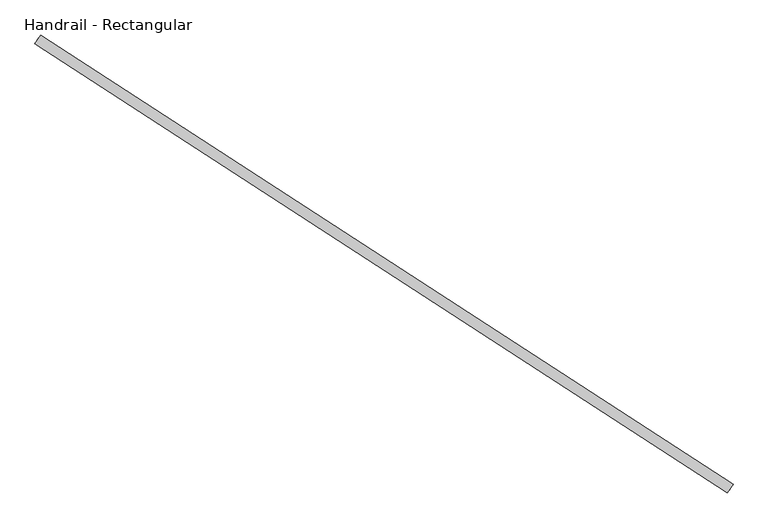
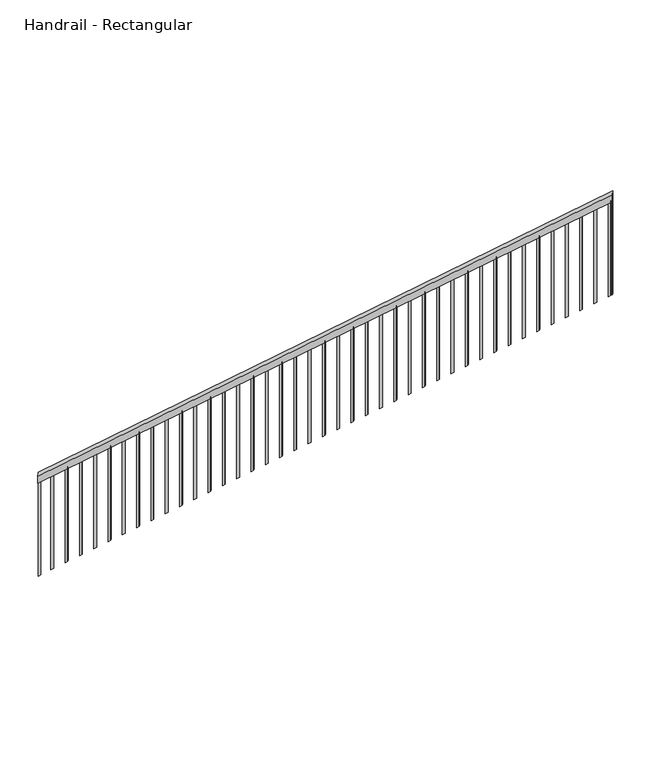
"""IFC4 building model written with IfcOpenShell, lengths in millimetres: railing geometry, Handrail - Rectangular."""

from ifc_helpers import new_model, si_unit, frame, origin, place, context, project, spatial, polyline, outline, extrude, source, transform, mapped, element, save


def handrail_rectangular_5320fbd9(model_context):
    return source(origin(), model_context, "Body", "SweptSolid", [
        extrude(outline(polyline([(32.1782991, -50.8), (0.0, 0.0), (4834.2931765, 0.0), (4866.4714756, -50.8), (32.1782991, -50.8)])), frame((13207.3128526, -12503.3805896, 854.2661249), z_axis=(0.5446390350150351, 0.8386705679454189, 0.0), x_axis=(0.7084935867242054, -0.4601011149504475, 0.5351110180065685)), (0.0, 0.0, 1.0), 50.8),
        extrude(outline(polyline([(222.5665689, -19.05), (234.6334311, 0.0), (1051.1557314, 0.0), (1039.0888692, -19.05), (222.5665689, -19.05)])), frame((16616.3278483, -14698.2920458, 3657.1300545), z_axis=(0.5446390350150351, 0.8386705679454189, 0.0), x_axis=(0.0, 0.0, -1.0)), (0.0, 0.0, 1.0), 19.05),
        extrude(outline(polyline([(222.5665689, -19.05), (234.6334311, 0.0), (1051.1557314, 0.0), (1039.0888692, -19.05), (222.5665689, -19.05)])), frame((16531.1189186, -14642.9567199, 3592.7734563), z_axis=(0.5446390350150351, 0.8386705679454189, 0.0), x_axis=(0.0, 0.0, -1.0)), (0.0, 0.0, 1.0), 19.05),
        extrude(outline(polyline([(222.5665689, -19.05), (234.633431, 0.0), (1051.1557313, 0.0), (1039.0888692, -19.05), (222.5665689, -19.05)])), frame((16445.9099889, -14587.6213939, 3528.416858), z_axis=(0.5446390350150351, 0.8386705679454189, 0.0), x_axis=(0.0, 0.0, -1.0)), (0.0, 0.0, 1.0), 19.05),
        extrude(outline(polyline([(222.5665689, -19.0500001), (234.6334311, 0.0), (1051.1557314, 0.0), (1039.0888692, -19.0500001), (222.5665689, -19.0500001)])), frame((16360.7010591, -14532.286068, 3464.0602598), z_axis=(0.5446390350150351, 0.8386705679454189, 0.0), x_axis=(0.0, 0.0, -1.0)), (0.0, 0.0, 1.0), 19.05),
        extrude(outline(polyline([(222.566569, -19.0500001), (234.6334311, 0.0), (1051.1557314, 0.0), (1039.0888693, -19.0500001), (222.566569, -19.0500001)])), frame((16275.4921294, -14476.950742, 3399.7036616), z_axis=(0.5446390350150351, 0.8386705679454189, 0.0), x_axis=(0.0, 0.0, -1.0)), (0.0, 0.0, 1.0), 19.05),
        extrude(outline(polyline([(222.5665689, -19.0500001), (234.6334311, 0.0), (1051.1557314, 0.0), (1039.0888692, -19.0500001), (222.5665689, -19.0500001)])), frame((16190.2831997, -14421.615416, 3335.3470633), z_axis=(0.5446390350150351, 0.8386705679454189, 0.0), x_axis=(0.0, 0.0, -1.0)), (0.0, 0.0, 1.0), 19.05),
        extrude(outline(polyline([(222.5665689, -19.0500001), (234.6334311, 0.0), (1051.1557314, 0.0), (1039.0888692, -19.0500001), (222.5665689, -19.0500001)])), frame((16105.07427, -14366.2800901, 3270.9904651), z_axis=(0.5446390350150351, 0.8386705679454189, 0.0), x_axis=(0.0, 0.0, -1.0)), (0.0, 0.0, 1.0), 19.05),
        extrude(outline(polyline([(222.5665689, -19.0500001), (234.633431, 0.0), (1051.1557313, 0.0), (1039.0888692, -19.0500001), (222.5665689, -19.0500001)])), frame((16019.8653403, -14310.9447641, 3206.6338668), z_axis=(0.5446390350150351, 0.8386705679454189, 0.0), x_axis=(0.0, 0.0, -1.0)), (0.0, 0.0, 1.0), 19.05),
        extrude(outline(polyline([(222.5665689, -19.0500001), (234.6334311, 0.0), (1051.1557314, 0.0), (1039.0888692, -19.0500001), (222.5665689, -19.0500001)])), frame((15934.6564106, -14255.6094382, 3142.2772686), z_axis=(0.5446390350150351, 0.8386705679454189, 0.0), x_axis=(0.0, 0.0, -1.0)), (0.0, 0.0, 1.0), 19.05),
        extrude(outline(polyline([(222.566569, -19.05), (234.6334311, 0.0), (1051.1557314, 0.0), (1039.0888693, -19.05), (222.566569, -19.05)])), frame((15849.4474809, -14200.2741122, 3077.9206704), z_axis=(0.5446390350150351, 0.8386705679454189, 0.0), x_axis=(0.0, 0.0, -1.0)), (0.0, 0.0, 1.0), 19.05),
        extrude(outline(polyline([(222.5665689, -19.05), (234.6334311, 0.0), (1051.1557314, 0.0), (1039.0888692, -19.05), (222.5665689, -19.05)])), frame((15764.2385512, -14144.9387863, 3013.5640721), z_axis=(0.5446390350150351, 0.8386705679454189, 0.0), x_axis=(0.0, 0.0, -1.0)), (0.0, 0.0, 1.0), 19.05),
        extrude(outline(polyline([(222.5665689, -19.05), (234.6334311, 0.0), (1051.1557314, 0.0), (1039.0888692, -19.05), (222.5665689, -19.05)])), frame((15679.0296215, -14089.6034603, 2949.2074739), z_axis=(0.5446390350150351, 0.8386705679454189, 0.0), x_axis=(0.0, 0.0, -1.0)), (0.0, 0.0, 1.0), 19.05),
        extrude(outline(polyline([(222.5665689, -19.05), (234.633431, 0.0), (1051.1557313, 0.0), (1039.0888692, -19.05), (222.5665689, -19.05)])), frame((15593.8206918, -14034.2681343, 2884.8508756), z_axis=(0.5446390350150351, 0.8386705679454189, 0.0), x_axis=(0.0, 0.0, -1.0)), (0.0, 0.0, 1.0), 19.05),
        extrude(outline(polyline([(222.5665689, -19.05), (234.6334311, 0.0), (1051.1557314, 0.0), (1039.0888692, -19.05), (222.5665689, -19.05)])), frame((15508.6117621, -13978.9328084, 2820.4942774), z_axis=(0.5446390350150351, 0.8386705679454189, 0.0), x_axis=(0.0, 0.0, -1.0)), (0.0, 0.0, 1.0), 19.05),
        extrude(outline(polyline([(222.566569, -19.05), (234.6334311, 0.0), (1051.1557314, 0.0), (1039.0888693, -19.05), (222.566569, -19.05)])), frame((15423.4028324, -13923.5974824, 2756.1376792), z_axis=(0.5446390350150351, 0.8386705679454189, 0.0), x_axis=(0.0, 0.0, -1.0)), (0.0, 0.0, 1.0), 19.05),
        extrude(outline(polyline([(222.5665689, -19.05), (234.6334311, 0.0), (1051.1557314, 0.0), (1039.0888692, -19.05), (222.5665689, -19.05)])), frame((15338.1939027, -13868.2621565, 2691.7810809), z_axis=(0.5446390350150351, 0.8386705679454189, 0.0), x_axis=(0.0, 0.0, -1.0)), (0.0, 0.0, 1.0), 19.05),
        extrude(outline(polyline([(222.5665689, -19.05), (234.6334311, 0.0), (1051.1557314, 0.0), (1039.0888692, -19.05), (222.5665689, -19.05)])), frame((15252.984973, -13812.9268305, 2627.4244827), z_axis=(0.5446390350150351, 0.8386705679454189, 0.0), x_axis=(0.0, 0.0, -1.0)), (0.0, 0.0, 1.0), 19.05),
        extrude(outline(polyline([(222.5665689, -19.05), (234.6334311, 0.0), (1051.1557314, 0.0), (1039.0888692, -19.05), (222.5665689, -19.05)])), frame((15167.7760433, -13757.5915046, 2563.0678844), z_axis=(0.5446390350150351, 0.8386705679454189, 0.0), x_axis=(0.0, 0.0, -1.0)), (0.0, 0.0, 1.0), 19.05),
        extrude(outline(polyline([(222.5665689, -19.05), (234.6334311, 0.0), (1051.1557314, 0.0), (1039.0888692, -19.05), (222.5665689, -19.05)])), frame((15082.5671136, -13702.2561786, 2498.7112862), z_axis=(0.5446390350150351, 0.8386705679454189, 0.0), x_axis=(0.0, 0.0, -1.0)), (0.0, 0.0, 1.0), 19.05),
        extrude(outline(polyline([(222.566569, -19.05), (234.6334311, 0.0), (1051.1557314, 0.0), (1039.0888693, -19.05), (222.566569, -19.05)])), frame((14997.3581839, -13646.9208526, 2434.354688), z_axis=(0.5446390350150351, 0.8386705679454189, 0.0), x_axis=(0.0, 0.0, -1.0)), (0.0, 0.0, 1.0), 19.05),
        extrude(outline(polyline([(222.5665689, -19.05), (234.6334311, 0.0), (1051.1557314, 0.0), (1039.0888692, -19.05), (222.5665689, -19.05)])), frame((14912.1492542, -13591.5855267, 2369.9980897), z_axis=(0.5446390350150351, 0.8386705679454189, 0.0), x_axis=(0.0, 0.0, -1.0)), (0.0, 0.0, 1.0), 19.05),
        extrude(outline(polyline([(222.5665689, -19.05), (234.6334311, 0.0), (1051.1557314, 0.0), (1039.0888692, -19.05), (222.5665689, -19.05)])), frame((14826.9403245, -13536.2502007, 2305.6414915), z_axis=(0.5446390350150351, 0.8386705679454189, 0.0), x_axis=(0.0, 0.0, -1.0)), (0.0, 0.0, 1.0), 19.05),
        extrude(outline(polyline([(222.5665689, -19.05), (234.6334311, 0.0), (1051.1557314, 0.0), (1039.0888692, -19.05), (222.5665689, -19.05)])), frame((14741.7313948, -13480.9148748, 2241.2848932), z_axis=(0.5446390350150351, 0.8386705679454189, 0.0), x_axis=(0.0, 0.0, -1.0)), (0.0, 0.0, 1.0), 19.05),
        extrude(outline(polyline([(222.5665689, -19.05), (234.6334311, 0.0), (1051.1557314, 0.0), (1039.0888692, -19.05), (222.5665689, -19.05)])), frame((14656.5224651, -13425.5795488, 2176.928295), z_axis=(0.5446390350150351, 0.8386705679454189, 0.0), x_axis=(0.0, 0.0, -1.0)), (0.0, 0.0, 1.0), 19.05),
        extrude(outline(polyline([(222.5665689, -19.05), (234.633431, 0.0), (1051.1557313, 0.0), (1039.0888692, -19.05), (222.5665689, -19.05)])), frame((14571.3135354, -13370.2442229, 2112.5716967), z_axis=(0.5446390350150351, 0.8386705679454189, 0.0), x_axis=(0.0, 0.0, -1.0)), (0.0, 0.0, 1.0), 19.05),
        extrude(outline(polyline([(222.5665689, -19.05), (234.6334311, 0.0), (1051.1557314, 0.0), (1039.0888692, -19.05), (222.5665689, -19.05)])), frame((14486.1046057, -13314.9088969, 2048.2150985), z_axis=(0.5446390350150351, 0.8386705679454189, 0.0), x_axis=(0.0, 0.0, -1.0)), (0.0, 0.0, 1.0), 19.05),
        extrude(outline(polyline([(222.5665689, -19.05), (234.6334311, 0.0), (1051.1557314, 0.0), (1039.0888692, -19.05), (222.5665689, -19.05)])), frame((14400.895676, -13259.5735709, 1983.8585003), z_axis=(0.5446390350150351, 0.8386705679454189, 0.0), x_axis=(0.0, 0.0, -1.0)), (0.0, 0.0, 1.0), 19.05),
        extrude(outline(polyline([(222.5665689, -19.05), (234.6334311, 0.0), (1051.1557314, 0.0), (1039.0888692, -19.05), (222.5665689, -19.05)])), frame((14315.6867463, -13204.238245, 1919.501902), z_axis=(0.5446390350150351, 0.8386705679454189, 0.0), x_axis=(0.0, 0.0, -1.0)), (0.0, 0.0, 1.0), 19.05),
        extrude(outline(polyline([(222.5665689, -19.05), (234.6334311, 0.0), (1051.1557314, 0.0), (1039.0888692, -19.05), (222.5665689, -19.05)])), frame((14230.4778166, -13148.902919, 1855.1453038), z_axis=(0.5446390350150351, 0.8386705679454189, 0.0), x_axis=(0.0, 0.0, -1.0)), (0.0, 0.0, 1.0), 19.05),
        extrude(outline(polyline([(222.5665689, -19.05), (234.633431, 0.0), (1051.1557313, 0.0), (1039.0888692, -19.05), (222.5665689, -19.05)])), frame((14145.2688869, -13093.5675931, 1790.7887055), z_axis=(0.5446390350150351, 0.8386705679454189, 0.0), x_axis=(0.0, 0.0, -1.0)), (0.0, 0.0, 1.0), 19.05),
        extrude(outline(polyline([(222.5665689, -19.05), (234.6334311, 0.0), (1051.1557314, 0.0), (1039.0888692, -19.05), (222.5665689, -19.05)])), frame((14060.0599572, -13038.2322671, 1726.4321073), z_axis=(0.5446390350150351, 0.8386705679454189, 0.0), x_axis=(0.0, 0.0, -1.0)), (0.0, 0.0, 1.0), 19.05),
        extrude(outline(polyline([(222.5665689, -19.05), (234.6334311, 0.0), (1051.1557314, 0.0), (1039.0888692, -19.05), (222.5665689, -19.05)])), frame((13974.8510275, -12982.8969411, 1662.0755091), z_axis=(0.5446390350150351, 0.8386705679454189, 0.0), x_axis=(0.0, 0.0, -1.0)), (0.0, 0.0, 1.0), 19.05),
        extrude(outline(polyline([(222.5665689, -19.05), (234.6334311, 0.0), (1051.1557314, 0.0), (1039.0888692, -19.05), (222.5665689, -19.05)])), frame((13889.6420978, -12927.5616152, 1597.7189108), z_axis=(0.5446390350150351, 0.8386705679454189, 0.0), x_axis=(0.0, 0.0, -1.0)), (0.0, 0.0, 1.0), 19.05),
        extrude(outline(polyline([(222.5665689, -19.05), (234.6334311, 0.0), (1051.1557314, 0.0), (1039.0888692, -19.05), (222.5665689, -19.05)])), frame((13804.4331681, -12872.2262892, 1533.3623126), z_axis=(0.5446390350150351, 0.8386705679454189, 0.0), x_axis=(0.0, 0.0, -1.0)), (0.0, 0.0, 1.0), 19.05),
        extrude(outline(polyline([(222.5665689, -19.0500001), (234.633431, 0.0), (1051.1557313, 0.0), (1039.0888692, -19.0500001), (222.5665689, -19.0500001)])), frame((13719.2242383, -12816.8909633, 1469.0057143), z_axis=(0.5446390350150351, 0.8386705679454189, 0.0), x_axis=(0.0, 0.0, -1.0)), (0.0, 0.0, 1.0), 19.05),
        extrude(outline(polyline([(222.5665689, -19.0500001), (234.6334311, 0.0), (1051.1557314, 0.0), (1039.0888692, -19.0500001), (222.5665689, -19.0500001)])), frame((13634.0153086, -12761.5556373, 1404.6491161), z_axis=(0.5446390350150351, 0.8386705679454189, 0.0), x_axis=(0.0, 0.0, -1.0)), (0.0, 0.0, 1.0), 19.05),
        extrude(outline(polyline([(222.566569, -19.0500001), (234.6334311, 0.0), (1051.1557314, 0.0), (1039.0888693, -19.0500001), (222.566569, -19.0500001)])), frame((13548.8063789, -12706.2203114, 1340.2925179), z_axis=(0.5446390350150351, 0.8386705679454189, 0.0), x_axis=(0.0, 0.0, -1.0)), (0.0, 0.0, 1.0), 19.05),
        extrude(outline(polyline([(222.5665689, -19.0500001), (234.6334311, 0.0), (1051.1557314, 0.0), (1039.0888692, -19.0500001), (222.5665689, -19.0500001)])), frame((13463.5974492, -12650.8849854, 1275.9359196), z_axis=(0.5446390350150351, 0.8386705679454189, 0.0), x_axis=(0.0, 0.0, -1.0)), (0.0, 0.0, 1.0), 19.05),
        extrude(outline(polyline([(222.5665689, -19.0500001), (234.6334311, 0.0), (1051.1557314, 0.0), (1039.0888692, -19.0500001), (222.5665689, -19.0500001)])), frame((13378.3885195, -12595.5496594, 1211.5793214), z_axis=(0.5446390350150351, 0.8386705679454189, 0.0), x_axis=(0.0, 0.0, -1.0)), (0.0, 0.0, 1.0), 19.05),
        extrude(outline(polyline([(222.5665689, -19.0500001), (234.633431, 0.0), (1051.1557313, 0.0), (1039.0888692, -19.0500001), (222.5665689, -19.0500001)])), frame((13293.1795898, -12540.2143335, 1147.2227231), z_axis=(0.5446390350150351, 0.8386705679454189, 0.0), x_axis=(0.0, 0.0, -1.0)), (0.0, 0.0, 1.0), 19.05),
        extrude(outline(polyline([(222.5665689, -19.05), (234.6334311, 0.0), (1051.1557314, 0.0), (1039.0888692, -19.05), (222.5665689, -19.05)])), frame((16625.0480349, -14703.9550012, 3663.7162368), z_axis=(0.5446390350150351, 0.8386705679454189, 0.0), x_axis=(0.0, 0.0, -1.0)), (0.0, 0.0, 1.0), 19.05),
        extrude(outline(polyline([(222.5665689, -19.05), (234.6334311, 0.0), (1051.1557314, 0.0), (1039.0888692, -19.05), (222.5665689, -19.05)])), frame((13215.9589973, -12490.0666943, 1088.899556), z_axis=(0.5446390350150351, 0.8386705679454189, 0.0), x_axis=(0.0, 0.0, -1.0)), (0.0, 0.0, 1.0), 19.05),
    ])


if __name__ == "__main__":
    model = new_model("IFC4")
    model_context = context("Model", 3, world=origin())
    ifc_project = project(units=[si_unit("LENGTHUNIT", "METRE", prefix="MILLI")], contexts=[model_context])
    site = spatial("IfcSite", under=ifc_project)
    building = spatial("IfcBuilding", under=site)
    placement = place(None, origin())
    handrail_rectangular_shape = handrail_rectangular_5320fbd9(model_context)
    element("IfcRailing", 1, ObjectType="Handrail - Rectangular", at=placement, inside=building, context=model_context, shape_type="MappedRepresentation", body=[
        mapped(handrail_rectangular_shape, transform((0.0, 0.0, 0.0), x_axis=(1.0, 0.0, 0.0), y_axis=(0.0, 1.0, 0.0), z_axis=(0.0, 0.0, 1.0))),
    ])
    save(model, "model.ifc")
